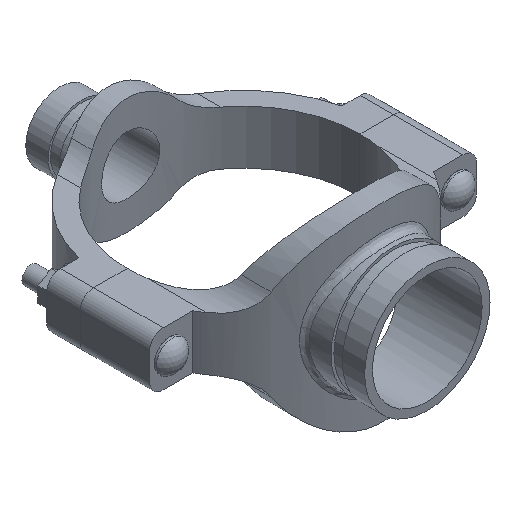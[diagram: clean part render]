
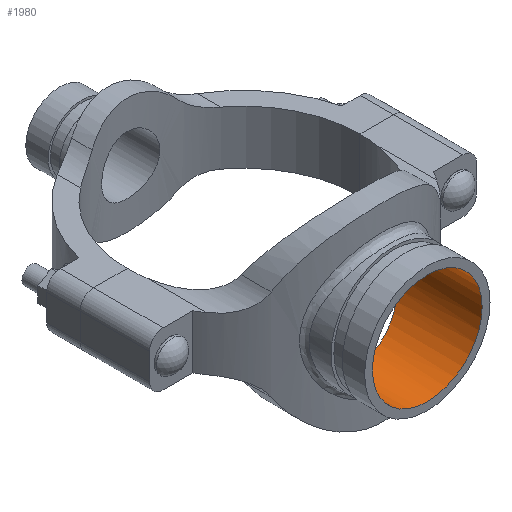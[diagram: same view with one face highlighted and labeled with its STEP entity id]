
A CAD part, isometric view. The second image highlights one B-rep face of the part: STEP entity #1980.
In plain terms, the highlighted cylindrical face has radius 38.894 mm (diameter 77.787 mm), a full revolution.
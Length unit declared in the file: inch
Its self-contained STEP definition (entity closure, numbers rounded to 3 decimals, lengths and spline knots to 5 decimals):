
#50=B_SPLINE_CURVE_WITH_KNOTS('',3,(#4008,#4009,#4010,#4011,#4012,#4013,
#4014,#4015,#4016,#4017,#4018,#4019,#4020,#4021,#4022,#4023,#4024,#4025,
#4026,#4027,#4028,#4029,#4030,#4031,#4032,#4033,#4034,#4035,#4036,#4037,
#4038,#4039,#4040,#4041,#4042,#4043,#4044,#4045,#4046,#4047,#4048,#4049,
#4050,#4051,#4052,#4053,#4054,#4055,#4056,#4057,#4058,#4059,#4060,#4061,
#4062,#4063,#4064,#4065,#4066,#4067,#4068,#4069,#4070,#4071,#4072,#4073),
 .UNSPECIFIED.,.T.,.F.,(4,2,2,2,2,2,2,2,2,2,2,2,2,2,2,2,2,2,2,2,2,2,2,2,
2,2,2,2,2,2,2,2,4),(0.,0.74639,1.49279,2.23918,
2.98558,3.73042,4.47526,5.2201,5.96494,
6.70978,7.45462,8.19946,8.9443,9.6907,
10.43709,11.18349,11.92988,12.67628,13.42267,
14.16907,14.91546,15.6603,16.40514,17.14998,
17.89482,18.63966,19.3845,20.12935,20.87419,
21.62058,22.36698,23.11337,23.85977),
 .UNSPECIFIED.);
#95=CYLINDRICAL_SURFACE('',#2217,1.53125);
#212=FACE_OUTER_BOUND('',#334,.T.);
#334=EDGE_LOOP('',(#1592,#1593,#1594,#1595));
#484=LINE('',#4007,#632);
#632=VECTOR('',#2682,1.53125);
#734=CIRCLE('',#2218,1.53125);
#899=VERTEX_POINT('',#4004);
#900=VERTEX_POINT('',#4006);
#1144=EDGE_CURVE('',#899,#899,#734,.T.);
#1145=EDGE_CURVE('',#899,#900,#484,.T.);
#1146=EDGE_CURVE('',#900,#900,#50,.T.);
#1592=ORIENTED_EDGE('',*,*,#1144,.F.);
#1593=ORIENTED_EDGE('',*,*,#1145,.T.);
#1594=ORIENTED_EDGE('',*,*,#1146,.F.);
#1595=ORIENTED_EDGE('',*,*,#1145,.F.);
#1980=ADVANCED_FACE('',(#212),#95,.F.);
#2217=AXIS2_PLACEMENT_3D('',#4003,#2678,#2679);
#2218=AXIS2_PLACEMENT_3D('',#4005,#2680,#2681);
#2678=DIRECTION('center_axis',(0.,-1.,0.));
#2679=DIRECTION('ref_axis',(-1.,0.,0.));
#2680=DIRECTION('center_axis',(0.,-1.,0.));
#2681=DIRECTION('ref_axis',(-1.,0.,0.));
#2682=DIRECTION('',(0.,-1.,0.));
#4003=CARTESIAN_POINT('Origin',(0.,5.13,0.));
#4004=CARTESIAN_POINT('',(1.53125,5.13,0.));
#4005=CARTESIAN_POINT('Origin',(0.,5.13,0.));
#4006=CARTESIAN_POINT('',(1.53125,2.86667,0.));
#4007=CARTESIAN_POINT('',(1.53125,5.13,0.));
#4008=CARTESIAN_POINT('Ctrl Pts',(1.53125,2.86667,0.));
#4009=CARTESIAN_POINT('Ctrl Pts',(1.53125,2.86667,-0.09795));
#4010=CARTESIAN_POINT('Ctrl Pts',(1.5217,2.87183,-0.19863));
#4011=CARTESIAN_POINT('Ctrl Pts',(1.48216,2.89244,-0.39777));
#4012=CARTESIAN_POINT('Ctrl Pts',(1.45219,2.90784,-0.49625));
#4013=CARTESIAN_POINT('Ctrl Pts',(1.37364,2.94576,-0.68428));
#4014=CARTESIAN_POINT('Ctrl Pts',(1.325,2.96826,-0.77401));
#4015=CARTESIAN_POINT('Ctrl Pts',(1.21316,3.0157,-0.93965));
#4016=CARTESIAN_POINT('Ctrl Pts',(1.14995,3.04059,-1.01556));
#4017=CARTESIAN_POINT('Ctrl Pts',(1.0157,3.08803,-1.14981));
#4018=CARTESIAN_POINT('Ctrl Pts',(0.93986,3.11232,-1.21301));
#4019=CARTESIAN_POINT('Ctrl Pts',(0.77419,3.15761,-1.3249));
#4020=CARTESIAN_POINT('Ctrl Pts',(0.68436,3.17857,-1.3736));
#4021=CARTESIAN_POINT('Ctrl Pts',(0.49612,3.21334,-1.45224));
#4022=CARTESIAN_POINT('Ctrl Pts',(0.39754,3.22714,-1.48223));
#4023=CARTESIAN_POINT('Ctrl Pts',(0.19836,3.24548,-1.52174));
#4024=CARTESIAN_POINT('Ctrl Pts',(0.09775,3.25,-1.53125));
#4025=CARTESIAN_POINT('Ctrl Pts',(-0.09775,3.25,-1.53125));
#4026=CARTESIAN_POINT('Ctrl Pts',(-0.19836,3.24548,-1.52174));
#4027=CARTESIAN_POINT('Ctrl Pts',(-0.39754,3.22714,-1.48223));
#4028=CARTESIAN_POINT('Ctrl Pts',(-0.49612,3.21334,-1.45224));
#4029=CARTESIAN_POINT('Ctrl Pts',(-0.68436,3.17857,-1.3736));
#4030=CARTESIAN_POINT('Ctrl Pts',(-0.77419,3.15761,-1.3249));
#4031=CARTESIAN_POINT('Ctrl Pts',(-0.93986,3.11232,-1.21301));
#4032=CARTESIAN_POINT('Ctrl Pts',(-1.0157,3.08803,-1.14981));
#4033=CARTESIAN_POINT('Ctrl Pts',(-1.14995,3.04059,-1.01556));
#4034=CARTESIAN_POINT('Ctrl Pts',(-1.21316,3.0157,-0.93965));
#4035=CARTESIAN_POINT('Ctrl Pts',(-1.325,2.96826,-0.77401));
#4036=CARTESIAN_POINT('Ctrl Pts',(-1.37364,2.94576,-0.68428));
#4037=CARTESIAN_POINT('Ctrl Pts',(-1.45219,2.90784,-0.49625));
#4038=CARTESIAN_POINT('Ctrl Pts',(-1.48216,2.89244,-0.39777));
#4039=CARTESIAN_POINT('Ctrl Pts',(-1.5217,2.87183,-0.19863));
#4040=CARTESIAN_POINT('Ctrl Pts',(-1.53125,2.86667,-0.09795));
#4041=CARTESIAN_POINT('Ctrl Pts',(-1.53125,2.86667,0.09795));
#4042=CARTESIAN_POINT('Ctrl Pts',(-1.5217,2.87183,0.19863));
#4043=CARTESIAN_POINT('Ctrl Pts',(-1.48216,2.89244,0.39777));
#4044=CARTESIAN_POINT('Ctrl Pts',(-1.45219,2.90784,0.49625));
#4045=CARTESIAN_POINT('Ctrl Pts',(-1.37364,2.94576,0.68428));
#4046=CARTESIAN_POINT('Ctrl Pts',(-1.325,2.96826,0.77401));
#4047=CARTESIAN_POINT('Ctrl Pts',(-1.21316,3.0157,0.93965));
#4048=CARTESIAN_POINT('Ctrl Pts',(-1.14995,3.04059,1.01556));
#4049=CARTESIAN_POINT('Ctrl Pts',(-1.0157,3.08803,1.14981));
#4050=CARTESIAN_POINT('Ctrl Pts',(-0.93986,3.11232,1.21301));
#4051=CARTESIAN_POINT('Ctrl Pts',(-0.77419,3.15761,1.3249));
#4052=CARTESIAN_POINT('Ctrl Pts',(-0.68436,3.17857,1.3736));
#4053=CARTESIAN_POINT('Ctrl Pts',(-0.49612,3.21334,1.45224));
#4054=CARTESIAN_POINT('Ctrl Pts',(-0.39754,3.22714,1.48223));
#4055=CARTESIAN_POINT('Ctrl Pts',(-0.19836,3.24548,1.52174));
#4056=CARTESIAN_POINT('Ctrl Pts',(-0.09775,3.25,1.53125));
#4057=CARTESIAN_POINT('Ctrl Pts',(0.09775,3.25,1.53125));
#4058=CARTESIAN_POINT('Ctrl Pts',(0.19836,3.24548,1.52174));
#4059=CARTESIAN_POINT('Ctrl Pts',(0.39754,3.22714,1.48223));
#4060=CARTESIAN_POINT('Ctrl Pts',(0.49612,3.21334,1.45224));
#4061=CARTESIAN_POINT('Ctrl Pts',(0.68436,3.17857,1.3736));
#4062=CARTESIAN_POINT('Ctrl Pts',(0.77419,3.15761,1.3249));
#4063=CARTESIAN_POINT('Ctrl Pts',(0.93986,3.11232,1.21301));
#4064=CARTESIAN_POINT('Ctrl Pts',(1.0157,3.08803,1.14981));
#4065=CARTESIAN_POINT('Ctrl Pts',(1.14995,3.04059,1.01556));
#4066=CARTESIAN_POINT('Ctrl Pts',(1.21316,3.0157,0.93965));
#4067=CARTESIAN_POINT('Ctrl Pts',(1.325,2.96826,0.77401));
#4068=CARTESIAN_POINT('Ctrl Pts',(1.37364,2.94576,0.68428));
#4069=CARTESIAN_POINT('Ctrl Pts',(1.45219,2.90784,0.49625));
#4070=CARTESIAN_POINT('Ctrl Pts',(1.48216,2.89244,0.39777));
#4071=CARTESIAN_POINT('Ctrl Pts',(1.5217,2.87183,0.19863));
#4072=CARTESIAN_POINT('Ctrl Pts',(1.53125,2.86667,0.09795));
#4073=CARTESIAN_POINT('Ctrl Pts',(1.53125,2.86667,0.));
